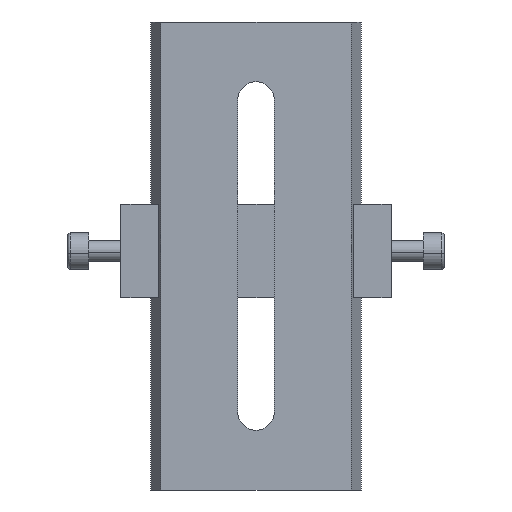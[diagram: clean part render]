
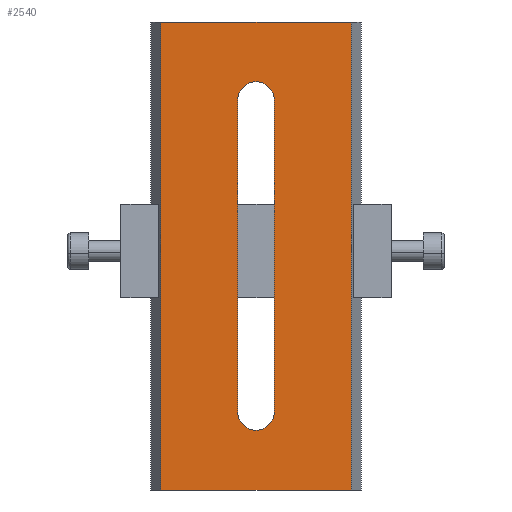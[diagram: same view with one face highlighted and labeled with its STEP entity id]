
A CAD part, left-side view. The second image highlights one B-rep face of the part: STEP entity #2540.
In plain terms, the highlighted planar face has unit normal (-1, 0, 0).
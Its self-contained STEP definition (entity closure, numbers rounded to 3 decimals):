
#21 = EDGE_CURVE ( 'NONE', #3996, #1714, #744, .T. ) ;
#25 = EDGE_CURVE ( 'NONE', #4123, #2033, #915, .T. ) ;
#96 = VERTEX_POINT ( 'NONE', #693 ) ;
#155 = VECTOR ( 'NONE', #2804, 1000. ) ;
#250 = DIRECTION ( 'NONE',  ( 0., 0., -1. ) ) ;
#322 = VERTEX_POINT ( 'NONE', #2967 ) ;
#351 = VECTOR ( 'NONE', #250, 1000. ) ;
#377 = DIRECTION ( 'NONE',  ( 0., 0., -1. ) ) ;
#395 = VECTOR ( 'NONE', #3885, 1000. ) ;
#399 = LINE ( 'NONE', #3993, #3714 ) ;
#458 = AXIS2_PLACEMENT_3D ( 'NONE', #2452, #3114, #3130 ) ;
#532 = DIRECTION ( 'NONE',  ( 1., 0., 0. ) ) ;
#568 = ORIENTED_EDGE ( 'NONE', *, *, #4002, .T. ) ;
#612 = CARTESIAN_POINT ( 'NONE',  ( 0., 18.338, 45. ) ) ;
#626 = VERTEX_POINT ( 'NONE', #3917 ) ;
#670 = EDGE_CURVE ( 'NONE', #2033, #322, #740, .T. ) ;
#693 = CARTESIAN_POINT ( 'NONE',  ( 0., 3.5, -30. ) ) ;
#695 = VERTEX_POINT ( 'NONE', #841 ) ;
#740 = LINE ( 'NONE', #3862, #395 ) ;
#744 = CIRCLE ( 'NONE', #4135, 3.5 ) ;
#823 = LINE ( 'NONE', #1717, #155 ) ;
#841 = CARTESIAN_POINT ( 'NONE',  ( 0., 3.5, 30. ) ) ;
#915 = LINE ( 'NONE', #612, #1289 ) ;
#950 = EDGE_CURVE ( 'NONE', #4123, #2369, #2565, .T. ) ;
#1032 = CARTESIAN_POINT ( 'NONE',  ( 0., 0., -30. ) ) ;
#1058 = PLANE ( 'NONE',  #458 ) ;
#1166 = FACE_OUTER_BOUND ( 'NONE', #3474, .T. ) ;
#1205 = DIRECTION ( 'NONE',  ( 0., 0., -1. ) ) ;
#1289 = VECTOR ( 'NONE', #2047, 1000. ) ;
#1500 = ORIENTED_EDGE ( 'NONE', *, *, #3253, .T. ) ;
#1581 = LINE ( 'NONE', #4277, #2134 ) ;
#1714 = VERTEX_POINT ( 'NONE', #3953 ) ;
#1717 = CARTESIAN_POINT ( 'NONE',  ( 0., 3.5, 45. ) ) ;
#1901 = DIRECTION ( 'NONE',  ( 0., 0., -1. ) ) ;
#1998 = EDGE_LOOP ( 'NONE', ( #4275, #2482, #1500, #568, #4356 ) ) ;
#2033 = VERTEX_POINT ( 'NONE', #2438 ) ;
#2047 = DIRECTION ( 'NONE',  ( 0., -1., 0. ) ) ;
#2111 = ORIENTED_EDGE ( 'NONE', *, *, #3146, .T. ) ;
#2134 = VECTOR ( 'NONE', #2515, 1000. ) ;
#2324 = ORIENTED_EDGE ( 'NONE', *, *, #670, .F. ) ;
#2326 = CARTESIAN_POINT ( 'NONE',  ( 0., 18.338, 45. ) ) ;
#2337 = AXIS2_PLACEMENT_3D ( 'NONE', #3338, #532, #1205 ) ;
#2369 = VERTEX_POINT ( 'NONE', #2693 ) ;
#2438 = CARTESIAN_POINT ( 'NONE',  ( 0., -18.338, 45. ) ) ;
#2452 = CARTESIAN_POINT ( 'NONE',  ( 0., 18.338, 45. ) ) ;
#2482 = ORIENTED_EDGE ( 'NONE', *, *, #21, .T. ) ;
#2512 = CIRCLE ( 'NONE', #2337, 3.5 ) ;
#2515 = DIRECTION ( 'NONE',  ( 0., -1., 0. ) ) ;
#2529 = CARTESIAN_POINT ( 'NONE',  ( 0., 18.338, 45. ) ) ;
#2540 = ADVANCED_FACE ( 'NONE', ( #2604, #1166 ), #1058, .F. ) ;
#2565 = LINE ( 'NONE', #2326, #351 ) ;
#2596 = CARTESIAN_POINT ( 'NONE',  ( 0., 0., 30. ) ) ;
#2604 = FACE_BOUND ( 'NONE', #1998, .T. ) ;
#2629 = CIRCLE ( 'NONE', #3713, 3.5 ) ;
#2693 = CARTESIAN_POINT ( 'NONE',  ( 0., 18.338, -45. ) ) ;
#2804 = DIRECTION ( 'NONE',  ( 0., 0., 1. ) ) ;
#2909 = ORIENTED_EDGE ( 'NONE', *, *, #25, .F. ) ;
#2967 = CARTESIAN_POINT ( 'NONE',  ( 0., -18.338, -45. ) ) ;
#3114 = DIRECTION ( 'NONE',  ( 1., 0., 0. ) ) ;
#3130 = DIRECTION ( 'NONE',  ( 0., 0., -1. ) ) ;
#3146 = EDGE_CURVE ( 'NONE', #2369, #322, #1581, .T. ) ;
#3149 = DIRECTION ( 'NONE',  ( 1., 0., 0. ) ) ;
#3249 = EDGE_CURVE ( 'NONE', #626, #3996, #399, .T. ) ;
#3253 = EDGE_CURVE ( 'NONE', #1714, #96, #2512, .T. ) ;
#3337 = DIRECTION ( 'NONE',  ( 0., 0., -1. ) ) ;
#3338 = CARTESIAN_POINT ( 'NONE',  ( 0., 0., -30. ) ) ;
#3474 = EDGE_LOOP ( 'NONE', ( #2111, #2324, #2909, #3869 ) ) ;
#3634 = EDGE_CURVE ( 'NONE', #695, #626, #2629, .T. ) ;
#3713 = AXIS2_PLACEMENT_3D ( 'NONE', #2596, #4020, #3337 ) ;
#3714 = VECTOR ( 'NONE', #1901, 1000. ) ;
#3857 = CARTESIAN_POINT ( 'NONE',  ( 0., -3.5, -30. ) ) ;
#3862 = CARTESIAN_POINT ( 'NONE',  ( 0., -18.338, 45. ) ) ;
#3869 = ORIENTED_EDGE ( 'NONE', *, *, #950, .T. ) ;
#3885 = DIRECTION ( 'NONE',  ( 0., 0., -1. ) ) ;
#3917 = CARTESIAN_POINT ( 'NONE',  ( 0., -3.5, 30. ) ) ;
#3953 = CARTESIAN_POINT ( 'NONE',  ( 0., 0., -33.5 ) ) ;
#3993 = CARTESIAN_POINT ( 'NONE',  ( 0., -3.5, 45. ) ) ;
#3996 = VERTEX_POINT ( 'NONE', #3857 ) ;
#4002 = EDGE_CURVE ( 'NONE', #96, #695, #823, .T. ) ;
#4020 = DIRECTION ( 'NONE',  ( 1., 0., 0. ) ) ;
#4123 = VERTEX_POINT ( 'NONE', #2529 ) ;
#4135 = AXIS2_PLACEMENT_3D ( 'NONE', #1032, #3149, #377 ) ;
#4275 = ORIENTED_EDGE ( 'NONE', *, *, #3249, .T. ) ;
#4277 = CARTESIAN_POINT ( 'NONE',  ( 0., 18.338, -45. ) ) ;
#4356 = ORIENTED_EDGE ( 'NONE', *, *, #3634, .T. ) ;
